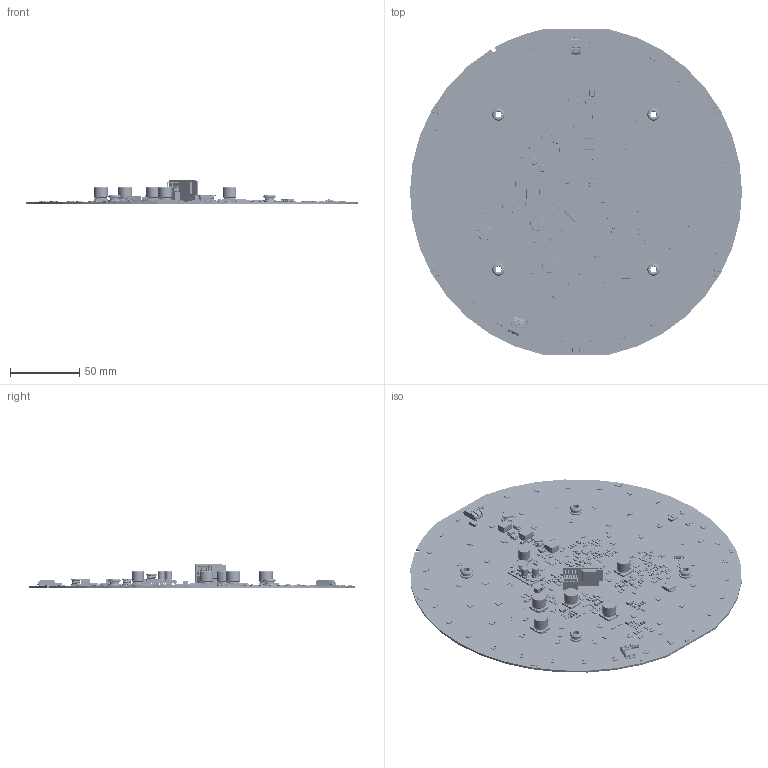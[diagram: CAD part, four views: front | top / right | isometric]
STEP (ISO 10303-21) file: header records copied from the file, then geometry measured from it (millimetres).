
FILE_DESCRIPTION (( 'STEP AP214' ), '1' );
FILE_NAME ('FLAT-AC-Wireless BL-2500.STEP', '2023-07-07T11:51:43', ( '' ), ( '' ), 'SwSTEP 2.0', 'SolidWorks 2023', '' );
FILE_SCHEMA (( 'AUTOMOTIVE_DESIGN' ));
Length unit declared in the file: millimetre
Products named in the file (45): 091_LED_MODULE_8MM_SS_091_LED_MODULE; 032_FASTRON-1616FPS_SMD_Standard; 021_101085105_011031_SMD_Standard; 011_1206_SMD_Standard; 061_SOT23-5_TPS2051B_Standard; 073_WAGO2060-452_D30001589_Standard; 04X_DO214AC_SMA_SMD_Standard; 014_3225_048_SMD_Standard; 044_SOT23_PNP_SMD_Standard; 091_CELABEL_SS_050_091_CELABEL; 04X_SOT23_SMD_Standard; 011_0402_SMD_Standard; 1q1448215100a20230620_Standard; 080_SNAPFIX-BUSHING-TIN_M4_D02978329_E-CAD_Detailled; 072_AEM-MF_2410_SMD_Standard; 034_0805_BEAD_SMD_RS_034_0805_BEAD_SMD_Standard; 06X_TO243AA_SOT89_SMD_Standard; 073_BLUETOOTH_254_2X4_MALE_H102; 04X_TO252_DPAK_SMD_Standard; 06X_SOT23_SMD_Standard; bluetooth; P091_WEEE_MARK_SS_P091_WEEE; 024_1812_H037_SMD_Standard; 079_075044027_SMD_D02715632_Standard; 04X_TO243AA_SOT89_SMD_Standard; 021_115105105_011043_SMD_Standard; 072_TRACKFUSE_DUMMY_003_072_TRACKFUSE_DUMMY; 024_0805_SMD_Standard; 024_1206_FLEX_SMD_Standard; 04X_DO219AA_SMD_AA; 011_0805_SMD_Standard; 011_0603_SMD_Standard; 055_XS-GW-JTLPS1_SMD_ADV; 032_BOURNS_SDR0805_SMD_Standard; 8pin-socket; 04X_SOT223-4_SMD_Standard; 061_TSSOP38_050_0660_SMD_Standard; 04X_DO214AA_SMB_SMD_H0265; 013_0402_SMD_R_013_0402_SMD_Standard; 04X_SOD323_SMD_Standard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
Assembly tree (496 placements, depth 2):
  FLAT-AC-Wireless BL-2500
    1q1448215100a20230620_Standard
    014_3225_048_SMD_Standard  x3
    011_0603_SMD_Standard  x69
    011_1206_SMD_Standard  x106
    021_101085105_011031_SMD_Standard
    024_0603_SMD_Standard  x16
    04X_DO219AA_SMD_AA  x2
    021_115105105_011043_SMD_Standard  x5
    04X_SOT23_SMD_Standard  x12
    013_0402_SMD_R_013_0402_SMD_Standard
    024_1206_FLEX_SMD_Standard  x8
    04X_SOD323_SMD_Standard  x21
    011_0805_SMD_Standard  x15
    024_0805_SMD_Standard  x17
    044_SOT23_PNP_SMD_Standard
    04X_TO243AA_SOT89_SMD_Standard  x2
    04X_TO252_DPAK_SMD_Standard  x2
    061_TSSOP38_050_0660_SMD_Standard
    04X_DO214AC_SMA_SMD_Standard
    072_TRACKFUSE_DUMMY_003_072_TRACKFUSE_DUMMY  x2
    032_BOURNS_SDR0805_SMD_Standard  x2
    080_SNAPFIX-BUSHING-TIN_M4_D02978329_E-CAD_Detailled  x4
    024_1812_H037_SMD_Standard
    032_FASTRON-1616FPS_SMD_Standard
    072_AEM-MF_2410_SMD_Standard
    077_TC_POINT_020_077_TC_POINT  x2
    04X_SOT223-4_SMD_Standard
    04X_DO214AA_SMB_SMD_H0265  x4
    P091_WEEE_MARK_SS_P091_WEEE
    011_0402_SMD_Standard  x84
    055_XS-GW-JTLPS1_SMD_ADV  x84
    073_WAGO2060-452_D30001589_Standard  x2
    06X_TO243AA_SOT89_SMD_Standard  x3
    091_LED_MODULE_8MM_SS_091_LED_MODULE
    091_CELABEL_SS_050_091_CELABEL
    P055_ZZ_SEOUL_5630_STW8Q14D_SMD_R_P055_ZZ_SEOUL_5630_STW8Q14D_SMD_Standard  x5
    034_0805_BEAD_SMD_Res
    034_0805_BEAD_SMD_RS_034_0805_BEAD_SMD_Standard  x2
    06X_SOT23_SMD_Standard  x2
    061_SOT23-5_TPS2051B_Standard  x4
    079_075044027_SMD_D02715632_Standard
    073_BLUETOOTH_254_2X4_MALE_H102
    bluetooth
    8pin-socket
Bounding box: 240 x 235 x 17.6 mm (x, y, z)
Volume: 83549 mm3; surface area: 111549 mm2
Topology: 549 solids, 549 shells, 14442 faces, 36655 edges, 24059 vertices
Faces by surface type: plane 12066, cylinder 2150, torus 143, cone 40, bspline 31, sphere 12
Entity records: 107668 total; most frequent: CARTESIAN_POINT 23163, DIRECTION 16863, ORIENTED_EDGE 16632, EDGE_CURVE 8316, VECTOR 7007, LINE 7007, VERTEX_POINT 5293, AXIS2_PLACEMENT_3D 4928
